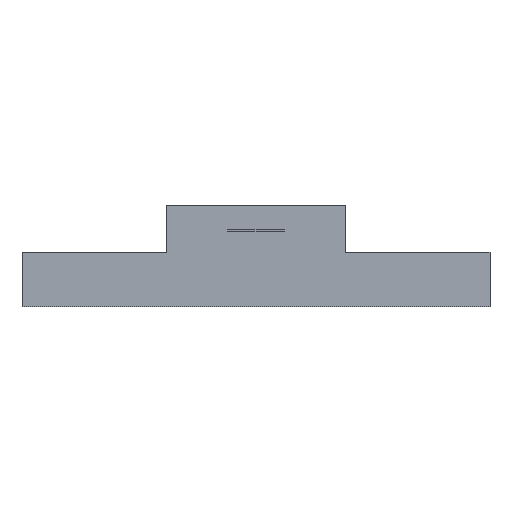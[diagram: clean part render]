
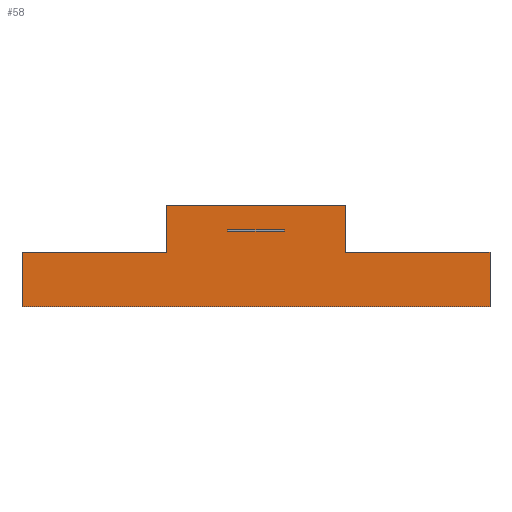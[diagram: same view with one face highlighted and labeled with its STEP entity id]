
A CAD part, front view. The second image highlights one B-rep face of the part: STEP entity #58.
In plain terms, the highlighted planar face has unit normal (0, -1, 0).
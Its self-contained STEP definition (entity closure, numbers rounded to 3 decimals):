
#58=ADVANCED_FACE('',(#256,#258),#260,.T.);
#256=FACE_BOUND('',#257,.T.);
#257=EDGE_LOOP('',(#426,#427,#428,#429,#430,#431,#432,#433));
#258=FACE_BOUND('',#259,.T.);
#259=EDGE_LOOP('',(#434,#435,#436,#437));
#260=PLANE('',#261);
#261=AXIS2_PLACEMENT_3D('',#262,#263,#264);
#262=CARTESIAN_POINT('',(-4.75,-4.75,4.));
#263=DIRECTION('',(0.,-1.,0.));
#264=DIRECTION('',(1.,0.,0.));
#426=ORIENTED_EDGE('',*,*,#530,.T.);
#427=ORIENTED_EDGE('',*,*,#531,.F.);
#428=ORIENTED_EDGE('',*,*,#532,.F.);
#429=ORIENTED_EDGE('',*,*,#533,.F.);
#430=ORIENTED_EDGE('',*,*,#534,.T.);
#431=ORIENTED_EDGE('',*,*,#535,.T.);
#432=ORIENTED_EDGE('',*,*,#536,.F.);
#433=ORIENTED_EDGE('',*,*,#537,.T.);
#434=ORIENTED_EDGE('',*,*,#538,.F.);
#435=ORIENTED_EDGE('',*,*,#539,.F.);
#436=ORIENTED_EDGE('',*,*,#540,.F.);
#437=ORIENTED_EDGE('',*,*,#541,.F.);
#530=EDGE_CURVE('',#582,#583,#584,.T.);
#531=EDGE_CURVE('',#585,#583,#586,.T.);
#532=EDGE_CURVE('',#587,#585,#588,.T.);
#533=EDGE_CURVE('',#589,#587,#590,.T.);
#534=EDGE_CURVE('',#589,#591,#592,.T.);
#535=EDGE_CURVE('',#591,#593,#594,.T.);
#536=EDGE_CURVE('',#595,#593,#596,.T.);
#537=EDGE_CURVE('',#595,#582,#597,.T.);
#538=EDGE_CURVE('',#598,#599,#600,.T.);
#539=EDGE_CURVE('',#601,#598,#602,.T.);
#540=EDGE_CURVE('',#603,#601,#604,.T.);
#541=EDGE_CURVE('',#599,#603,#605,.F.);
#582=VERTEX_POINT('',#670);
#583=VERTEX_POINT('',#671);
#584=LINE('',#672,#673);
#585=VERTEX_POINT('',#675);
#586=LINE('',#676,#677);
#587=VERTEX_POINT('',#679);
#588=LINE('',#680,#681);
#589=VERTEX_POINT('',#683);
#590=LINE('',#684,#685);
#591=VERTEX_POINT('',#687);
#592=LINE('',#688,#689);
#593=VERTEX_POINT('',#691);
#594=LINE('',#692,#693);
#595=VERTEX_POINT('',#695);
#596=LINE('',#696,#697);
#597=LINE('',#699,#700);
#598=VERTEX_POINT('',#702);
#599=VERTEX_POINT('',#703);
#600=LINE('',#704,#705);
#601=VERTEX_POINT('',#707);
#602=LINE('',#708,#709);
#603=VERTEX_POINT('',#711);
#604=LINE('',#712,#713);
#605=LINE('',#715,#716);
#670=CARTESIAN_POINT('',(4.75,-4.75,5.4));
#671=CARTESIAN_POINT('',(-4.75,-4.75,5.4));
#672=CARTESIAN_POINT('',(4.75,-4.75,5.4));
#673=VECTOR('',#674,1.);
#674=DIRECTION('',(-1.,0.,0.));
#675=CARTESIAN_POINT('',(-4.75,-4.75,2.9));
#676=CARTESIAN_POINT('',(-4.75,-4.75,2.9));
#677=VECTOR('',#678,1.);
#678=DIRECTION('',(0.,0.,1.));
#679=CARTESIAN_POINT('',(-12.4,-4.75,2.9));
#680=CARTESIAN_POINT('',(-12.4,-4.75,2.9));
#681=VECTOR('',#682,1.);
#682=DIRECTION('',(1.,0.,0.));
#683=CARTESIAN_POINT('',(-12.4,-4.75,0.));
#684=CARTESIAN_POINT('',(-12.4,-4.75,0.));
#685=VECTOR('',#686,1.);
#686=DIRECTION('',(0.,0.,1.));
#687=CARTESIAN_POINT('',(12.4,-4.75,0.));
#688=CARTESIAN_POINT('',(-12.4,-4.75,0.));
#689=VECTOR('',#690,1.);
#690=DIRECTION('',(1.,0.,0.));
#691=CARTESIAN_POINT('',(12.4,-4.75,2.9));
#692=CARTESIAN_POINT('',(12.4,-4.75,0.));
#693=VECTOR('',#694,1.);
#694=DIRECTION('',(0.,0.,1.));
#695=CARTESIAN_POINT('',(4.75,-4.75,2.9));
#696=CARTESIAN_POINT('',(4.75,-4.75,2.9));
#697=VECTOR('',#698,1.);
#698=DIRECTION('',(1.,0.,0.));
#699=CARTESIAN_POINT('',(4.75,-4.75,2.9));
#700=VECTOR('',#701,1.);
#701=DIRECTION('',(0.,0.,1.));
#702=CARTESIAN_POINT('',(-1.5,-4.75,4.1));
#703=CARTESIAN_POINT('',(-1.5,-4.75,4.));
#704=CARTESIAN_POINT('',(-1.5,-4.75,4.1));
#705=VECTOR('',#706,1.);
#706=DIRECTION('',(0.,0.,-1.));
#707=CARTESIAN_POINT('',(1.5,-4.75,4.1));
#708=CARTESIAN_POINT('',(1.5,-4.75,4.1));
#709=VECTOR('',#710,1.);
#710=DIRECTION('',(-1.,0.,0.));
#711=CARTESIAN_POINT('',(1.5,-4.75,4.));
#712=CARTESIAN_POINT('',(1.5,-4.75,4.));
#713=VECTOR('',#714,1.);
#714=DIRECTION('',(0.,0.,1.));
#715=CARTESIAN_POINT('',(1.5,-4.75,4.));
#716=VECTOR('',#717,1.);
#717=DIRECTION('',(-1.,0.,0.));
